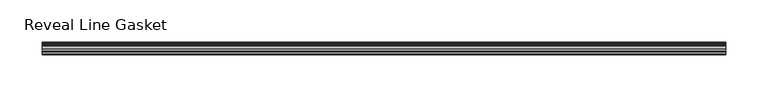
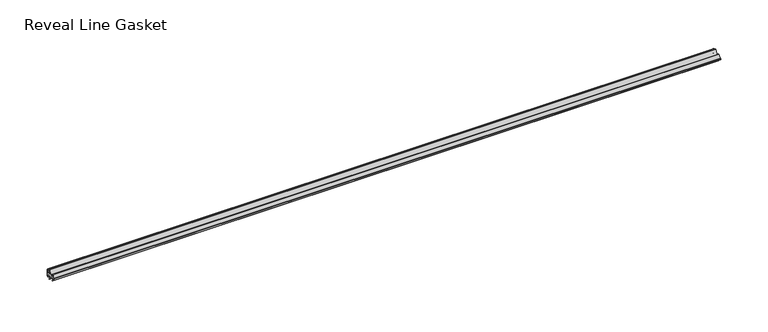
"""IFC4 building model written with IfcOpenShell, lengths in millimetres: proxy geometry, Accessories-Teknion-FHGR-AI_Healthcare-Reveal_Line_Gasket(Horizontal)-R2022 : Reveal Line Gasket."""

from ifc_helpers import new_model, si_unit, point, frame, frame_2d, origin, place, context, project, spatial, polyline, circle_curve, trimmed, segment, composite_curve, outline, extrude, source, transform, mapped, element, save


def reveal_line_gasket_3b4d9b44(model_context):
    return source(origin(), model_context, "Body", "SweptSolid", [
        extrude(outline(composite_curve([segment(polyline([(7.6326998, 1603.2), (7.6326998, 1597.2), (7.4091917, 1596.2445073), (6.8813059, 1595.3115316)]), True, "CONTINUOUS"), segment(trimmed(circle_curve(frame_2d((6.5243141, 1595.5135207)), 0.4101739), [point((6.8813059, 1595.3115316))], [point((6.1246704, 1595.6058653))], False, "CARTESIAN"), True, "CONTINUOUS"), segment(polyline([(6.1246704, 1595.6058653), (6.3626997, 1597.3020914), (6.3626997, 1599.3345473)]), True, "CONTINUOUS"), segment(trimmed(circle_curve(frame_2d((5.6959605, 1598.9180742)), 0.786124), [point((6.3626997, 1599.3345473))], [point((5.0926996, 1599.422125))], True, "CARTESIAN"), True, "CONTINUOUS"), segment(polyline([(5.0926996, 1599.422125), (0.7492996, 1599.422125), (3.7293824, 1594.2604705)]), True, "CONTINUOUS"), segment(trimmed(circle_curve(frame_2d((3.3132479, 1594.1950239)), 0.4212495), [point((3.7293824, 1594.2604705))], [point((3.0485022, 1593.8673642))], False, "CARTESIAN"), True, "CONTINUOUS"), segment(polyline([(3.0485022, 1593.8673642), (-0.5742594, 1599.422125), (-4.8262978, 1599.422125), (-3.1660374, 1596.5464703)]), True, "CONTINUOUS"), segment(trimmed(circle_curve(frame_2d((-3.5978728, 1596.4881145)), 0.4357605), [point((-3.1660374, 1596.5464703))], [point((-3.864328, 1596.1433119))], False, "CARTESIAN"), True, "CONTINUOUS"), segment(polyline([(-3.864328, 1596.1433119), (-6.1944059, 1599.422125), (-7.6326998, 1599.422125), (-7.6326998, 1600.977875), (-6.1944059, 1600.977875), (-3.864328, 1604.2566881)]), True, "CONTINUOUS"), segment(trimmed(circle_curve(frame_2d((-3.5978728, 1603.9118855)), 0.4357605), [point((-3.864328, 1604.2566881))], [point((-3.1660374, 1603.8535297))], False, "CARTESIAN"), True, "CONTINUOUS"), segment(polyline([(-3.1660374, 1603.8535297), (-4.8262978, 1600.977875), (-0.5742594, 1600.977875), (3.0485022, 1606.5326358)]), True, "CONTINUOUS"), segment(trimmed(circle_curve(frame_2d((3.3132479, 1606.2049761)), 0.4212495), [point((3.0485022, 1606.5326358))], [point((3.7293824, 1606.1395295))], False, "CARTESIAN"), True, "CONTINUOUS"), segment(polyline([(3.7293824, 1606.1395295), (0.7492996, 1600.977875), (5.0926996, 1600.977875)]), True, "CONTINUOUS"), segment(trimmed(circle_curve(frame_2d((5.6959605, 1601.4819258)), 0.786124), [point((5.0926996, 1600.977875))], [point((6.3626997, 1601.0654527))], True, "CARTESIAN"), True, "CONTINUOUS"), segment(polyline([(6.3626997, 1601.0654527), (6.3626997, 1603.0979086), (6.1246704, 1604.7941347)]), True, "CONTINUOUS"), segment(trimmed(circle_curve(frame_2d((6.5243141, 1604.8864793)), 0.4101739), [point((6.1246704, 1604.7941347))], [point((6.8813059, 1605.0884684))], False, "CARTESIAN"), True, "CONTINUOUS"), segment(polyline([(6.8813059, 1605.0884684), (7.4091917, 1604.1554927), (7.6326998, 1603.2)]), True, "CONTINUOUS")], self_intersect=False)), frame((-407.1249464, 0.0, 0.0), z_axis=(1.0, 0.0, 0.0), x_axis=(0.0, 1.0, 0.0)), (0.0, 0.0, 1.0), 814.2498928),
    ])


if __name__ == "__main__":
    model = new_model("IFC4")
    model_context = context("Model", 3, world=origin())
    ifc_project = project(units=[si_unit("LENGTHUNIT", "METRE", prefix="MILLI")], contexts=[model_context])
    site = spatial("IfcSite", under=ifc_project)
    building = spatial("IfcBuilding", under=site)
    placement = place(None, origin())
    reveal_line_gasket_shape = reveal_line_gasket_3b4d9b44(model_context)
    element("IfcBuildingElementProxy", 1, Name="Accessories-Teknion-FHGR-AI_Healthcare-Reveal_Line_Gasket(Horizontal)-R2022 : Reveal Line Gasket", ObjectType="Accessories-Teknion-FHGR-AI_Healthcare-Reveal_Line_Gasket(Horizontal)-R2022 : Reveal Line Gasket", at=placement, inside=building, context=model_context, shape_type="MappedRepresentation", body=[
        mapped(reveal_line_gasket_shape, transform((0.0, 0.0, 0.0), x_axis=(1.0, 0.0, 0.0), y_axis=(0.0, 1.0, 0.0), z_axis=(0.0, 0.0, 1.0))),
    ])
    save(model, "model.ifc")
